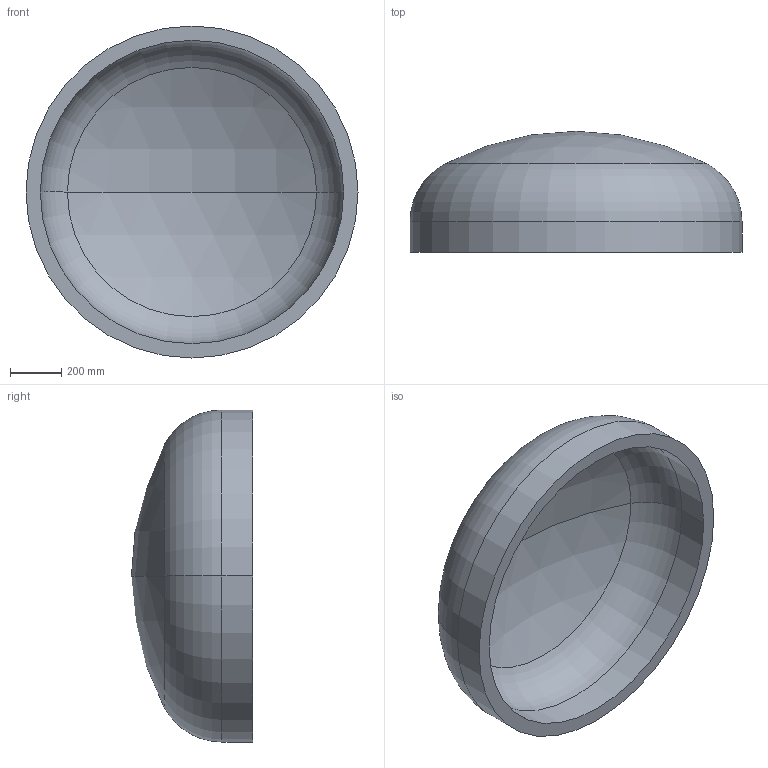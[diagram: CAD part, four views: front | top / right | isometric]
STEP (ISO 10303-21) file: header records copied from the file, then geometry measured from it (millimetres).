
FILE_DESCRIPTION (( 'STEP AP203' ), '1' );
FILE_NAME ('DIN 28013 Korbbogenform_-_Boden DIN 28013 - 1300 x 120 - I - s=56.step', '2016-07-01T09:55:20', ( '' ), ( '' ), 'SwSTEP 2.0', 'SolidWorks 2013', '' );
FILE_SCHEMA (( 'CONFIG_CONTROL_DESIGN' ));
Length unit declared in the file: millimetre
Products named in the file (1): DIN 28013 Korbbogenform_-_Boden DIN 28013 - 1300 x 120 - I - s=56
Bounding box: 1300 x 474.13 x 1300 mm (x, y, z)
Volume: 123614395.4 mm3; surface area: 4640222.7 mm2
Topology: 1 solids, 1 shells, 13 faces, 24 edges, 14 vertices
Faces by surface type: torus 4, cylinder 4, sphere 4, plane 1
Entity records: 407 total; most frequent: DIRECTION 72, CARTESIAN_POINT 52, ORIENTED_EDGE 48, AXIS2_PLACEMENT_3D 34, EDGE_CURVE 24, CIRCLE 20, VERTEX_POINT 14, EDGE_LOOP 14
